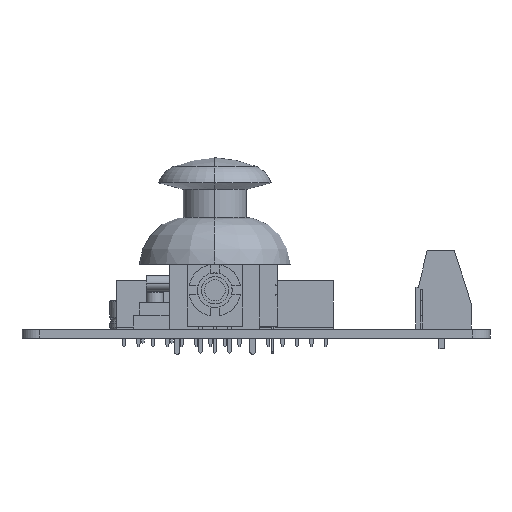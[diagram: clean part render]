
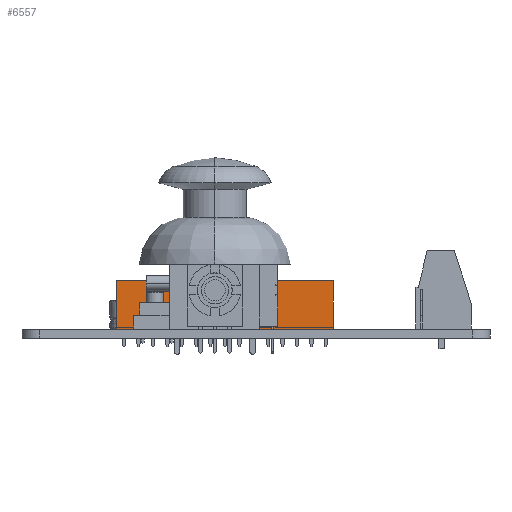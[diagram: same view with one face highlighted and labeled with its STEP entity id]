
A CAD part, left-side view. The second image highlights one B-rep face of the part: STEP entity #6557.
In plain terms, the highlighted planar face has unit normal (-1, 0, 0).
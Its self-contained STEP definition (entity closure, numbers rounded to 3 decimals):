
#4834 = VERTEX_POINT('',#4835);
#4835 = CARTESIAN_POINT('',(-1.27,-36.83,0.));
#4843 = EDGE_CURVE('',#4834,#4844,#4846,.T.);
#4844 = VERTEX_POINT('',#4845);
#4845 = CARTESIAN_POINT('',(-1.27,-36.83,8.5));
#4846 = LINE('',#4847,#4848);
#4847 = CARTESIAN_POINT('',(-1.27,-36.83,0.));
#4848 = VECTOR('',#4849,1.);
#4849 = DIRECTION('',(0.,0.,1.));
#4906 = VERTEX_POINT('',#4907);
#4907 = CARTESIAN_POINT('',(-1.27,1.27,8.5));
#4913 = EDGE_CURVE('',#4914,#4906,#4916,.T.);
#4914 = VERTEX_POINT('',#4915);
#4915 = CARTESIAN_POINT('',(-1.27,1.27,0.));
#4916 = LINE('',#4917,#4918);
#4917 = CARTESIAN_POINT('',(-1.27,1.27,0.));
#4918 = VECTOR('',#4919,1.);
#4919 = DIRECTION('',(0.,0.,1.));
#4978 = EDGE_CURVE('',#4906,#4844,#4979,.T.);
#4979 = LINE('',#4980,#4981);
#4980 = CARTESIAN_POINT('',(-1.27,1.27,8.5));
#4981 = VECTOR('',#4982,1.);
#4982 = DIRECTION('',(0.,-1.,0.));
#5511 = EDGE_CURVE('',#4914,#4834,#5512,.T.);
#5512 = LINE('',#5513,#5514);
#5513 = CARTESIAN_POINT('',(-1.27,1.27,0.));
#5514 = VECTOR('',#5515,1.);
#5515 = DIRECTION('',(0.,-1.,0.));
#6557 = ADVANCED_FACE('',(#6558),#6564,.F.);
#6558 = FACE_BOUND('',#6559,.F.);
#6559 = EDGE_LOOP('',(#6560,#6561,#6562,#6563));
#6560 = ORIENTED_EDGE('',*,*,#4913,.T.);
#6561 = ORIENTED_EDGE('',*,*,#4978,.T.);
#6562 = ORIENTED_EDGE('',*,*,#4843,.F.);
#6563 = ORIENTED_EDGE('',*,*,#5511,.F.);
#6564 = PLANE('',#6565);
#6565 = AXIS2_PLACEMENT_3D('',#6566,#6567,#6568);
#6566 = CARTESIAN_POINT('',(-1.27,1.27,0.));
#6567 = DIRECTION('',(1.,0.,0.));
#6568 = DIRECTION('',(0.,-1.,0.));
